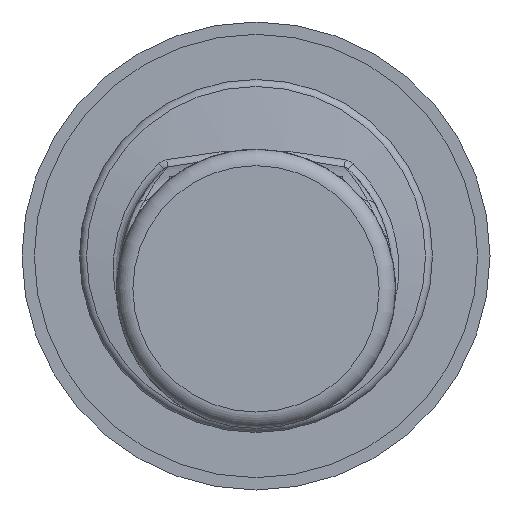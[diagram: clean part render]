
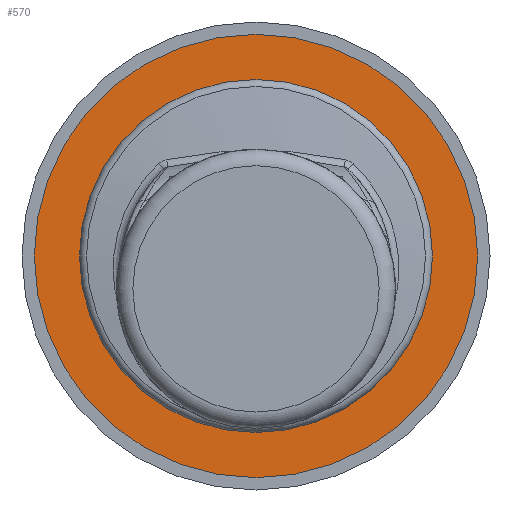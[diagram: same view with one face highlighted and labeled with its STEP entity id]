
A CAD part, left-side view. The second image highlights one B-rep face of the part: STEP entity #570.
In plain terms, the highlighted planar face has unit normal (-1, 0, 0).
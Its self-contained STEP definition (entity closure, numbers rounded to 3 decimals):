
#420=PLANE('',#3177);
#462=FACE_BOUND('',#990,.T.);
#463=FACE_BOUND('',#991,.T.);
#570=ADVANCED_FACE('',(#462,#463),#420,.T.);
#990=EDGE_LOOP('',(#1632));
#991=EDGE_LOOP('',(#1633));
#1632=ORIENTED_EDGE('',*,*,#2651,.T.);
#1633=ORIENTED_EDGE('',*,*,#2649,.F.);
#2309=VERTEX_POINT('',#7222);
#2311=VERTEX_POINT('',#7254);
#2649=EDGE_CURVE('',#2309,#2309,#2984,.T.);
#2651=EDGE_CURVE('',#2311,#2311,#2986,.T.);
#2984=CIRCLE('',#3174,10.);
#2986=CIRCLE('',#3176,13.5);
#3174=AXIS2_PLACEMENT_3D('',#7221,#3627,#3628);
#3176=AXIS2_PLACEMENT_3D('',#7253,#3631,#3632);
#3177=AXIS2_PLACEMENT_3D('',#7255,#3633,#3634);
#3627=DIRECTION('',(-1.,0.,0.));
#3628=DIRECTION('',(0.,0.,1.));
#3631=DIRECTION('',(-1.,0.,0.));
#3632=DIRECTION('',(0.,0.,1.));
#3633=DIRECTION('',(-1.,0.,0.));
#3634=DIRECTION('',(0.,0.,1.));
#7221=CARTESIAN_POINT('',(9.5,0.,0.));
#7222=CARTESIAN_POINT('',(9.5,0.,10.));
#7253=CARTESIAN_POINT('',(9.5,0.,0.));
#7254=CARTESIAN_POINT('',(9.5,0.,13.5));
#7255=CARTESIAN_POINT('',(9.5,0.,-10.));
